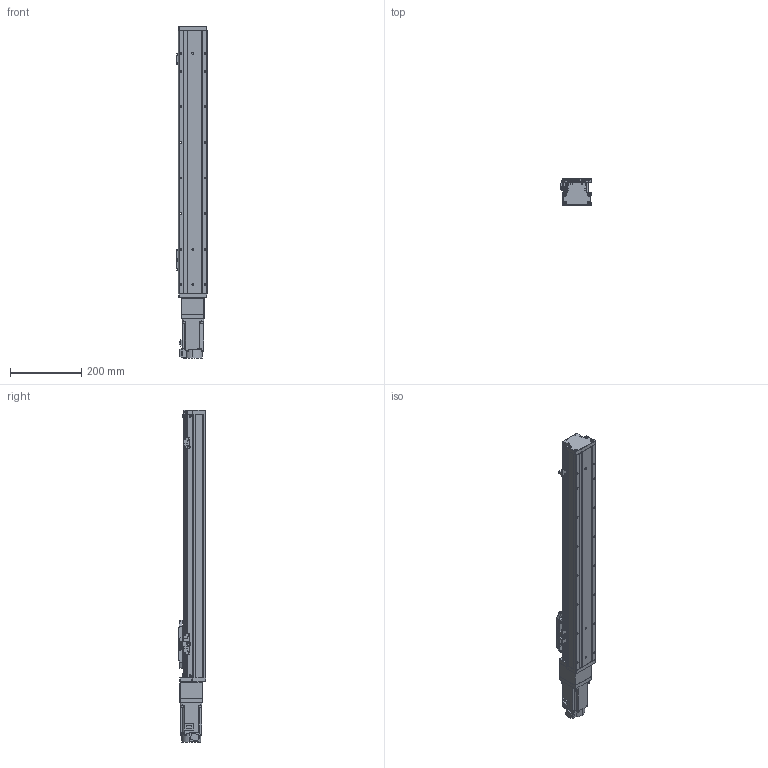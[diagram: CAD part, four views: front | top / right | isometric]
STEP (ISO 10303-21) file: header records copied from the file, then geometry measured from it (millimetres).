
FILE_DESCRIPTION (( 'STEP AP203' ), '1' );
FILE_NAME ('GTH8-550-BC-M20-C4.step', '2022-09-23T00:55:25', ( '微软用户' ), ( '微软中国' ), 'SwSTEP 2.0', 'SolidWorks 2020', '' );
FILE_SCHEMA (( 'CONFIG_CONTROL_DESIGN' ));
Length unit declared in the file: millimetre
Products named in the file (19): GBT 70.3-M3℅6; GBT96.1-2002 3×0.8; GTH80-022; BTH-M3X5X6; GTH80-001_550; GBT 70.1-M3℅6; CTHA86-006-1_CTHA86-006-2; GTH80-003; GBT 70.1-M4×16; CTHA86-013; GTH80-004; GTH80-028; CTHA86-027; GTH80-006; GTH50-024; hg-kn43j_-s100_; GTH80-013; GTH50-023; GTH8-550-BC-M20-C4
Assembly tree (60 placements, depth 2):
  GTH8-550-BC-M20-C4
    GTH80-001_550
    GTH80-003
    GTH80-004
    GTH80-006
    GTH80-013
    GBT 70.3-M3℅6  x6
    GTH80-022
    GBT 70.1-M3℅6  x14
    GBT 70.1-M4×16  x8
    GTH80-028  x2
    GTH50-024  x3
    GTH50-023  x3
    GBT96.1-2002 3×0.8  x6
    BTH-M3X5X6  x8
    CTHA86-006-1_CTHA86-006-2
    CTHA86-013
    CTHA86-027
    hg-kn43j_-s100_
Bounding box: 86.9 x 78 x 932.7 mm (x, y, z)
Volume: 4013043.5 mm3; surface area: 431559.7 mm2
Topology: 62 solids, 62 shells, 2231 faces, 5128 edges, 3123 vertices
Faces by surface type: plane 1173, cylinder 601, cone 285, torus 162, sphere 8, bspline 2
Entity records: 38816 total; most frequent: CARTESIAN_POINT 6407, DIRECTION 6366, ORIENTED_EDGE 5846, EDGE_CURVE 2923, AXIS2_PLACEMENT_3D 2224, VECTOR 1918, LINE 1918, VERTEX_POINT 1836
